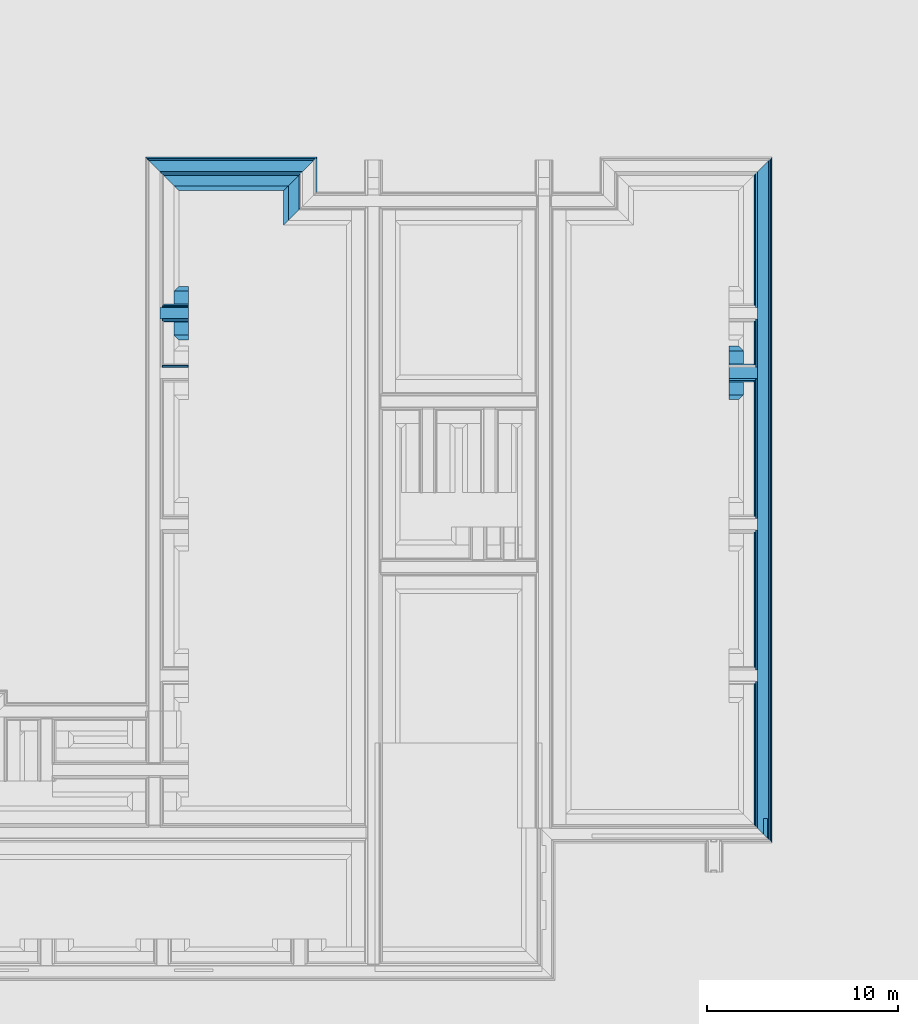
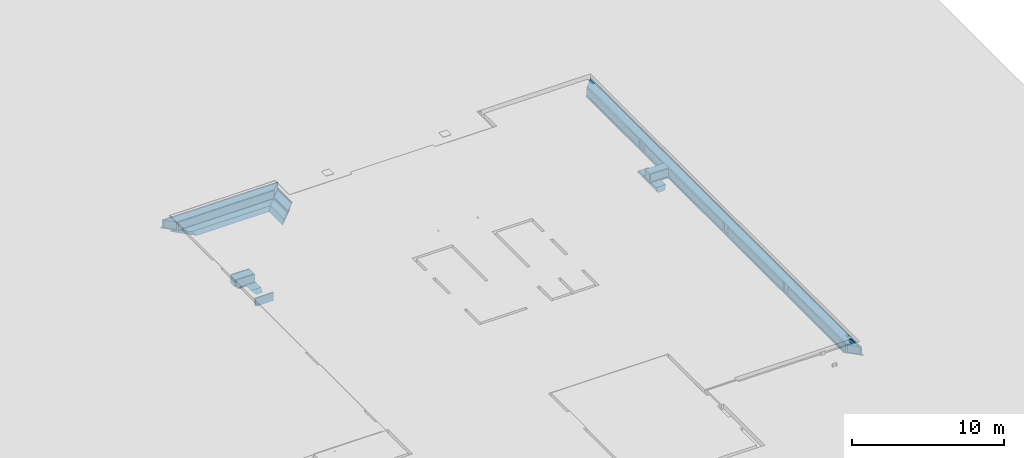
# One storey, part 12 of 15: 21 building element parts, 6 elements without a shape of their own.
"""IFC2X3 building model written with IfcOpenShell, lengths in millimetres."""

from ifc_helpers import new_model, entity, si_unit, converted_unit, derived_unit, money_unit, direction, frame, origin_with_axes, place, context, subcontext, project, spatial, faceted_brep, material, type_object, element, aggregate, save


model = new_model("IFC2X3")

# Units and contexts
model_context = context("Model", 3, precision=0.01, world=origin_with_axes(), true_north=direction((0.0, 1.0)))
plan_context = context("Plan", 3, precision=0.01, world=origin_with_axes(), true_north=direction((0.0, 1.0)))
body_context = subcontext(model_context, "Body", "Model", "MODEL_VIEW")
ifc_project = project(units=[si_unit("LENGTHUNIT", "METRE", prefix="MILLI"), si_unit("AREAUNIT", "SQUARE_METRE"), si_unit("VOLUMEUNIT", "CUBIC_METRE"), converted_unit("PLANEANGLEUNIT", "DEGREE", entity("IfcPlaneAngleMeasure", 0.0174532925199), si_unit("PLANEANGLEUNIT", "RADIAN"), dimensions=[0, 0, 0, 0, 0, 0, 0]), money_unit("EUR"), converted_unit("TIMEUNIT", "Year", entity("IfcTimeMeasure", 31556926.0), si_unit("TIMEUNIT", "SECOND"), dimensions=[0, 0, 1, 0, 0, 0, 0]), si_unit("MASSUNIT", "GRAM", prefix="KILO"), si_unit("THERMODYNAMICTEMPERATUREUNIT", "DEGREE_CELSIUS"), si_unit("LUMINOUSINTENSITYUNIT", "LUMEN"), si_unit("ENERGYUNIT", "JOULE", prefix="MEGA"), derived_unit("THERMALCONDUCTANCEUNIT", [(si_unit("POWERUNIT", "WATT"), 1), (si_unit("LENGTHUNIT", "METRE"), -1), (si_unit("THERMODYNAMICTEMPERATUREUNIT", "KELVIN"), -1)]), derived_unit("SPECIFICHEATCAPACITYUNIT", [(si_unit("ENERGYUNIT", "JOULE"), 1), (si_unit("MASSUNIT", "GRAM", prefix="KILO"), -1), (si_unit("THERMODYNAMICTEMPERATUREUNIT", "KELVIN"), -1)]), derived_unit("MASSDENSITYUNIT", [(si_unit("MASSUNIT", "GRAM", prefix="KILO"), 1), (si_unit("VOLUMEUNIT", "CUBIC_METRE"), -1)])], contexts=[model_context, plan_context])

# Site, building, storey
site_placement = place(None, origin_with_axes())
site = spatial("IfcSite", under=ifc_project, at=site_placement, Name="Site", CompositionType="ELEMENT")
building_placement = place(site_placement, origin_with_axes())
building = spatial("IfcBuilding", under=site, at=building_placement, Name="Naam gebouw", CompositionType="ELEMENT")
storey_placement = place(building_placement, frame((0.0, 0.0, -1050.0), z_axis=(0.0, 0.0, 1.0), x_axis=(1.0, 0.0, 0.0)))
storey = spatial("IfcBuildingStorey", under=building, at=storey_placement, Name="fundering", CompositionType="ELEMENT", Elevation=-1050.0)

# Beam, building element part
beam_type_1 = type_object("IfcBeamType", Name="Fundering balk IsoBouw Powerkist 2800 x 850", PredefinedType="BEAM")
beam_1_placement = place(storey_placement, frame((24125.0, 36200.0, -60.0000017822), z_axis=(0.0, 0.0, 1.0), x_axis=(0.0, -1.0, 0.0)))
beam_1 = element("IfcBeam", 1, at=beam_1_placement, inside=storey, type_object=beam_type_1, Name="28_Balk-x", ObjectType="BEAM")
ifc_material_1 = material(Name="Isolatie - EPS")
building_element_part_1_placement = place(beam_1_placement, origin_with_axes())
building_element_part_1 = element("IfcBuildingElementPart", 2, at=building_element_part_1_placement, material=ifc_material_1, Name="Isolatie - EPS", context=body_context, shape_type="Brep", body=[
    faceted_brep([(-380.000369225, 1803.44907352, -49.0824424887), (-380.000369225, 495.00000274, -49.0824424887), (-380.000369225, 495.00000274, 7.15338899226e-07), (-380.000369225, 1803.44907352, 2.4249691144e-06), (-300.00036966, 1803.44907352, -49.0824424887), (-300.00036966, 495.00000274, -49.0824424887), (-300.00036966, 495.00000274, 7.15338899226e-07), (-300.00036966, 419.999990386, 7.15338899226e-07), (-400.000366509, 419.999990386, 7.15338899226e-07), (-400.000366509, 1803.44907352, 2.4249691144e-06), (-400.000366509, 1803.44907352, 600.000004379), (-300.00036966, 1803.44907352, 600.000004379), (-300.00036966, 419.999990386, 600.000000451), (-400.000366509, 419.999990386, 600.000000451)], [[[0, 1, 2, 3]], [[4, 5, 1, 0]], [[6, 2, 1, 5]], [[6, 7, 8, 9, 3, 2]], [[4, 0, 3, 9, 10, 11]], [[7, 6, 5, 4, 11, 12]], [[7, 12, 13, 8]], [[9, 8, 13, 10]], [[10, 13, 12, 11]]]),
])
aggregate(beam_1, [building_element_part_1])

# Beam, building element parts
beam_type_2 = type_object("IfcBeamType", Name="Fundering balk IsoBouw Powerkist buitenwand 1750 x 850", PredefinedType="BEAM")
beam_2_placement = place(storey_placement, frame((24125.0, 47036.9999775, -60.0000017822), z_axis=(0.0, 0.0, 1.0), x_axis=(0.0, -1.0, 0.0)))
beam_2 = element("IfcBeam", 3, at=beam_2_placement, inside=storey, type_object=beam_type_2, Name="28_Balk-x", ObjectType="BEAM")
ifc_material_2 = material(Name="ALG - TERREIN")
building_element_part_2_placement = place(beam_2_placement, origin_with_axes())
building_element_part_2 = element("IfcBuildingElementPart", 4, at=building_element_part_2_placement, material=ifc_material_2, Name="ALG - TERREIN", context=body_context, shape_type="Brep", body=[
    faceted_brep([(1045.00001313, 7039.99998687, -7.27431315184e-06), (495.000015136, 7589.99998486, -7.27431315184e-06), (495.000015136, 495.000015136, -7.27431315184e-06), (1045.00001313, 1045.00001313, -7.27431315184e-06), (1295.00000274, 6789.99999726, -249.999996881), (20.0000061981, 8064.9999938, -249.999996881), (20.0000061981, 8064.9999938, -99.9999926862), (495.000015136, 7589.99998486, -99.9999926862), (495.000015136, 495.000015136, -99.9999926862), (20.0000061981, 20.0000061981, -99.9999926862), (20.0000061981, 20.0000061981, -249.999996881), (1295.00000274, 1295.00000274, -249.999996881)], [[[0, 1, 2, 3]], [[0, 4, 5, 6, 7, 1]], [[1, 7, 8, 2]], [[3, 2, 8, 9, 10, 11]], [[4, 0, 3, 11]], [[5, 4, 11, 10]], [[6, 5, 10, 9]], [[7, 6, 9, 8]]]),
])
building_element_part_3_placement = place(beam_2_placement, origin_with_axes())
building_element_part_3 = element("IfcBuildingElementPart", 5, at=building_element_part_3_placement, material=ifc_material_1, Name="Isolatie - EPS", context=body_context, shape_type="Brep", body=[
    faceted_brep([(400.000002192, 7684.99999781, 7.15338899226e-07), (400.000002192, 7684.99999781, -49.0824410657), (400.000002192, 400.000002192, -49.0824410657), (400.000002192, 400.000002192, 7.15338899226e-07), (419.999990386, 7665.00000961, 7.15338899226e-07), (495.00000274, 7589.99999726, 7.15338899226e-07), (495.00000274, 7589.99999726, -99.9999968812), (20.0000061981, 8064.9999938, -99.9999926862), (-455.00000274, 8540.00000274, -99.9999968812), (-455.00000274, 8540.00000274, 7.15338899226e-07), (-379.999990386, 8464.99999039, 7.15338899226e-07), (-360.000002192, 8445.00000219, 7.15338899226e-07), (-360.000002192, 8445.00000219, -49.0824410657), (-279.99999279, 8364.99999279, -49.0824410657), (-279.99999279, 8364.99999279, 7.15338899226e-07), (319.99999279, 7765.00000721, 7.15338899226e-07), (319.99999279, 7765.00000721, -49.0824410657), (319.99999279, 319.99999279, -49.0824410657), (319.99999279, 319.99999279, 7.15338899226e-07), (-279.99999279, -279.99999279, 7.15338899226e-07), (-279.99999279, -279.99999279, -49.0824410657), (-360.000002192, -360.000002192, -49.0824410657), (-360.000002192, -360.000002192, 7.15338899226e-07), (-379.999990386, -379.999990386, 7.15338899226e-07), (-455.00000274, -455.00000274, 7.15338899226e-07), (-455.00000274, -455.00000274, -99.9999968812), (20.0000061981, 20.0000061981, -99.9999926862), (495.00000274, 495.00000274, -99.9999968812), (495.00000274, 495.00000274, 7.15338899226e-07), (419.999990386, 419.999990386, 7.15338899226e-07)], [[[0, 1, 2, 3]], [[0, 4, 5, 6, 7, 8, 9, 10, 11, 12, 13, 14, 15, 16, 1]], [[1, 16, 17, 2]], [[3, 2, 17, 18, 19, 20, 21, 22, 23, 24, 25, 26, 27, 28, 29]], [[4, 0, 3, 29]], [[5, 4, 29, 28]], [[6, 5, 28, 27]], [[7, 6, 27, 26]], [[8, 7, 26, 25]], [[9, 8, 25, 24]], [[10, 9, 24, 23]], [[11, 10, 23, 22]], [[12, 11, 22, 21]], [[13, 12, 21, 20]], [[14, 13, 20, 19]], [[15, 14, 19, 18]], [[16, 15, 18, 17]]]),
])
building_element_part_4_placement = place(beam_2_placement, origin_with_axes())
building_element_part_4 = element("IfcBuildingElementPart", 6, at=building_element_part_4_placement, material=ifc_material_1, Name="Isolatie - EPS", context=body_context, shape_type="Brep", body=[
    faceted_brep([(-379.999993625, 8464.99999363, 2.28759100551e-06), (-359.999996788, 8444.99999679, 2.28759100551e-06), (-359.999996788, -359.999996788, 2.28759100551e-06), (-379.999993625, -379.999993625, 2.28759100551e-06), (-379.999993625, 8464.99999363, 600.000001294), (-279.999999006, 8364.99999901, 600.000001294), (-279.999999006, 8364.99999901, -49.0824424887), (-359.999996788, 8444.99999679, -49.0824424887), (-359.999996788, -359.999996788, -49.0824424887), (-279.999999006, -279.999999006, -49.0824424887), (-279.999999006, -279.999999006, 600.000001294), (-379.999993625, -379.999993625, 600.000001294)], [[[0, 1, 2, 3]], [[0, 4, 5, 6, 7, 1]], [[1, 7, 8, 2]], [[3, 2, 8, 9, 10, 11]], [[4, 0, 3, 11]], [[5, 4, 11, 10]], [[6, 5, 10, 9]], [[7, 6, 9, 8]]]),
])
building_element_part_5_placement = place(beam_2_placement, origin_with_axes())
building_element_part_5 = element("IfcBuildingElementPart", 7, at=building_element_part_5_placement, material=ifc_material_1, Name="Isolatie - EPS", context=body_context, shape_type="Brep", body=[
    faceted_brep([(419.999993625, 419.999993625, 600.000003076), (419.999993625, 7665.00000637, 600.000003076), (319.999999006, 7765.00000099, 600.000003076), (319.999999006, 319.999999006, 600.000003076), (419.999993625, 419.999993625, 4.06975675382e-06), (419.999993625, 7665.00000637, 4.06975675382e-06), (399.999996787, 7685.00000321, 4.06975675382e-06), (399.999996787, 7685.00000321, -49.0824407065), (319.999999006, 7765.00000099, -49.0824407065), (319.999999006, 319.999999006, -49.0824407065), (399.999996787, 399.999996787, -49.0824407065), (399.999996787, 399.999996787, 4.06975675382e-06)], [[[0, 1, 2, 3]], [[4, 5, 1, 0]], [[2, 1, 5, 6, 7, 8]], [[3, 2, 8, 9]], [[4, 0, 3, 9, 10, 11]], [[11, 6, 5, 4]], [[10, 7, 6, 11]], [[9, 8, 7, 10]]]),
])
ifc_material_3 = material(Name="Beton gewapend C")
building_element_part_6_placement = place(beam_2_placement, origin_with_axes())
building_element_part_6 = element("IfcBuildingElementPart", 8, at=building_element_part_6_placement, material=ifc_material_3, Name="Beton gewapend C", context=body_context, shape_type="Brep", body=[
    faceted_brep([(320.0, 320.0, 600.000001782), (320.0, 7765.0, 600.000001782), (-280.0, 8365.0, 600.0), (-280.0, -280.0, 600.0), (320.0, 320.0, 1.78216552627e-06), (320.0, 7765.0, 1.78216552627e-06), (-280.0, 8365.0, 0.0), (-280.0, -280.0, 0.0)], [[[0, 1, 2, 3]], [[4, 5, 1, 0]], [[2, 1, 5, 6]], [[3, 2, 6, 7]], [[4, 0, 3, 7]], [[7, 6, 5, 4]]]),
])
aggregate(beam_2, [building_element_part_2, building_element_part_3, building_element_part_4, building_element_part_5, building_element_part_6])

beam_3_placement = place(storey_placement, frame((54225.0, 36200.0, -60.0000017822), z_axis=(0.0, 0.0, 1.0), x_axis=(0.0, -1.0, 0.0)))
beam_3 = element("IfcBeam", 9, at=beam_3_placement, inside=storey, type_object=beam_type_1, Name="28_Balk-x", ObjectType="BEAM")
building_element_part_7_placement = place(beam_3_placement, origin_with_axes())
building_element_part_7 = element("IfcBuildingElementPart", 10, at=building_element_part_7_placement, material=ifc_material_2, Name="ALG - TERREIN", context=body_context, shape_type="Brep", body=[
    faceted_brep([(-475.000395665, 754.999964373, -7.27431315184e-06), (-1150.00039795, 754.999964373, -7.27431315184e-06), (-1150.00039795, 0.0, -1.92126834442e-05), (-475.000395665, 0.0, 2.25106189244e-05), (-1400.00037562, 504.999974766, -249.999996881), (-475.000395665, 654.99996234, -100.000009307), (475.000395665, 654.99996234, -100.000009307), (475.000395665, 754.999964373, -7.27431315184e-06), (1150.00039795, 754.999964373, -7.27431315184e-06), (1400.00037562, 504.999974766, -249.999996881), (-1400.00037562, 0.0, -249.999996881), (1400.00037562, 0.0, -249.999996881), (1150.00039795, 0.0, -1.92126834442e-05), (475.000395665, 0.0, 2.25106189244e-05), (475.000395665, 0.0, -100.00001028), (-475.000395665, 0.0, -100.00001028)], [[[0, 1, 2, 3]], [[4, 1, 0, 5, 6, 7, 8, 9]], [[1, 4, 10, 2]], [[11, 12, 13, 14, 15, 3, 2, 10]], [[5, 0, 3, 15]], [[6, 5, 15, 14]], [[7, 6, 14, 13]], [[8, 7, 13, 12]], [[9, 8, 12, 11]], [[4, 9, 11, 10]]]),
])
building_element_part_8_placement = place(beam_3_placement, origin_with_axes())
building_element_part_8 = element("IfcBuildingElementPart", 11, at=building_element_part_8_placement, material=ifc_material_1, Name="Isolatie - EPS", context=body_context, shape_type="Brep", body=[
    faceted_brep([(-400.000361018, 1304.99997477, 7.15338899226e-07), (-475.000375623, 1304.99997477, 7.15338899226e-07), (-475.000375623, 0.0, 8.43651903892e-06), (-400.000361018, 0.0, 8.43651903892e-06), (-475.000375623, 1304.99997477, -99.9999968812), (-380.000371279, 1304.99997477, 7.15338899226e-07), (-380.000371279, 1304.99997477, -49.0824435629), (-300.000369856, 1304.99997477, -49.0824435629), (-300.000369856, 1304.99997477, 7.15338899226e-07), (300.000369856, 1304.99997477, 7.15338899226e-07), (300.000369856, 1304.99997477, -49.0824435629), (380.000371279, 1304.99997477, -49.0824435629), (380.000371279, 1304.99997477, 7.15338899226e-07), (400.000361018, 1304.99997477, 7.15338899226e-07), (475.000375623, 1304.99997477, 7.15338899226e-07), (475.000375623, 1304.99997477, -99.9999968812), (-475.000375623, 0.0, -99.9999968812), (475.000375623, 0.0, 8.43651926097e-06), (400.000361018, 0.0, 8.43651903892e-06), (380.000371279, 0.0, 8.43651903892e-06), (380.000371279, 0.0, -49.0824435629), (300.000369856, 0.0, -49.0824435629), (300.000369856, 0.0, 8.43651903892e-06), (-300.000369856, 0.0, 8.43651903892e-06), (-300.000369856, 0.0, -49.0824435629), (-380.000371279, 0.0, -49.0824435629), (-380.000371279, 0.0, 8.43651903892e-06), (475.000375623, 0.0, -99.9999968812)], [[[0, 1, 2, 3]], [[4, 1, 0, 5, 6, 7, 8, 9, 10, 11, 12, 13, 14, 15]], [[1, 4, 16, 2]], [[17, 18, 19, 20, 21, 22, 23, 24, 25, 26, 3, 2, 16, 27]], [[5, 0, 3, 26]], [[6, 5, 26, 25]], [[7, 6, 25, 24]], [[8, 7, 24, 23]], [[9, 8, 23, 22]], [[10, 9, 22, 21]], [[11, 10, 21, 20]], [[12, 11, 20, 19]], [[13, 12, 19, 18]], [[14, 13, 18, 17]], [[15, 14, 17, 27]], [[4, 15, 27, 16]]]),
])
building_element_part_9_placement = place(beam_3_placement, origin_with_axes())
building_element_part_9 = element("IfcBuildingElementPart", 12, at=building_element_part_9_placement, material=ifc_material_1, Name="Isolatie - EPS", context=body_context, shape_type="Brep", body=[
    faceted_brep([(400.000366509, 0.0, 600.000004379), (400.000366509, 1379.99998712, 600.000000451), (300.00036966, 1379.99998712, 600.000000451), (300.00036966, 0.0, 600.000004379), (400.000366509, 0.0, 2.4249691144e-06), (400.000366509, 1379.99998712, 7.15338899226e-07), (300.00036966, 1379.99998712, 7.15338899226e-07), (300.00036966, 1304.99997477, 7.15338899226e-07), (300.00036966, 1304.99997477, -49.0824424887), (300.00036966, 0.0, -49.0824424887), (380.000369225, 0.0, -49.0824424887), (380.000369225, 0.0, 2.4249691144e-06), (380.000369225, 1304.99997477, 7.15338899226e-07), (380.000369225, 1304.99997477, -49.0824424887)], [[[0, 1, 2, 3]], [[4, 5, 1, 0]], [[5, 6, 2, 1]], [[6, 7, 8, 9, 3, 2]], [[10, 11, 4, 0, 3, 9]], [[7, 6, 5, 4, 11, 12]], [[13, 8, 7, 12]], [[9, 8, 13, 10]], [[10, 13, 12, 11]]]),
])
building_element_part_10_placement = place(beam_3_placement, origin_with_axes())
building_element_part_10 = element("IfcBuildingElementPart", 13, at=building_element_part_10_placement, material=ifc_material_3, Name="Beton gewapend C", context=body_context, shape_type="Brep", body=[
    faceted_brep([(300.000372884, 0.0, 600.0), (300.000372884, 1479.99997751, 600.000001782), (-300.000372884, 1479.99997751, 600.000001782), (-300.000372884, 0.0, 600.0), (300.000372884, 0.0, 0.0), (300.000372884, 1479.99997751, 1.78216552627e-06), (-300.000372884, 1479.99997751, 1.78216552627e-06), (-300.000372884, 0.0, 0.0)], [[[0, 1, 2, 3]], [[4, 5, 1, 0]], [[5, 6, 2, 1]], [[3, 2, 6, 7]], [[3, 7, 4, 0]], [[7, 6, 5, 4]]]),
])
aggregate(beam_3, [building_element_part_7, building_element_part_8, building_element_part_9, building_element_part_10])

beam_4_placement = place(storey_placement, frame((24125.0, 39325.0, -60.0000017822), z_axis=(0.0, 0.0, 1.0), x_axis=(0.0, -1.0, 0.0)))
beam_4 = element("IfcBeam", 14, at=beam_4_placement, inside=storey, type_object=beam_type_1, Name="28_Balk-x", ObjectType="BEAM")
building_element_part_11_placement = place(beam_4_placement, origin_with_axes())
building_element_part_11 = element("IfcBuildingElementPart", 15, at=building_element_part_11_placement, material=ifc_material_2, Name="ALG - TERREIN", context=body_context, shape_type="Brep", body=[
    faceted_brep([(1400.00037562, 1295.00000274, -249.999996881), (-1400.00037562, 1295.00000274, -249.999996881), (-1400.00037562, 1803.44907352, -249.999996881), (1400.00037562, 1803.44907352, -249.999996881), (-1150.00039795, 1045.00001313, -6.21457107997e-07), (1150.00039795, 1045.00001313, 2.15207474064e-06), (475.000395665, 1045.00001313, 1.3381036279e-06), (475.000395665, 1145.00001516, -100.000009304), (-475.000395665, 1145.00001516, -100.000009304), (-475.000395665, 1045.00001313, 1.92513782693e-07), (-1150.00039795, 1803.44907352, -1.92126834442e-05), (-475.000395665, 1803.44907352, -100.00001028), (475.000395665, 1803.44907352, -100.00001028), (475.000395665, 1803.44907352, 2.25106189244e-05), (1150.00039795, 1803.44907352, -1.92126834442e-05), (-475.000395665, 1803.44907352, 2.25106189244e-05)], [[[0, 1, 2, 3]], [[4, 1, 0, 5, 6, 7, 8, 9]], [[1, 4, 10, 2]], [[11, 12, 13, 14, 3, 2, 10, 15]], [[5, 0, 3, 14]], [[6, 5, 14, 13]], [[7, 6, 13, 12]], [[8, 7, 12, 11]], [[9, 8, 11, 15]], [[4, 9, 15, 10]]]),
])
building_element_part_12_placement = place(beam_4_placement, origin_with_axes())
building_element_part_12 = element("IfcBuildingElementPart", 16, at=building_element_part_12_placement, material=ifc_material_1, Name="Isolatie - EPS", context=body_context, shape_type="Brep", body=[
    faceted_brep([(-475.000375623, 495.00000274, -99.9999968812), (-475.000375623, 495.00000274, 7.15338899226e-07), (-475.000375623, 1803.44907352, 8.43651903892e-06), (-475.000375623, 1803.44907352, -99.9999968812), (-400.000361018, 495.00000274, 7.15338899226e-07), (475.000375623, 495.00000274, -99.9999968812), (475.000375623, 495.00000274, 7.15338899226e-07), (400.000361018, 495.00000274, 7.15338899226e-07), (380.000371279, 495.00000274, 7.15338899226e-07), (380.000371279, 495.00000274, -49.0824435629), (300.000369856, 495.00000274, -49.0824435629), (300.000369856, 495.00000274, 7.15338899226e-07), (-300.000369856, 495.00000274, 7.15338899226e-07), (-300.000369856, 495.00000274, -49.0824435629), (-380.000371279, 495.00000274, -49.0824435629), (-380.000371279, 495.00000274, 7.15338899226e-07), (-400.000361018, 1803.44907352, 8.43651903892e-06), (300.000369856, 1803.44907352, -49.0824435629), (380.000371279, 1803.44907352, -49.0824435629), (380.000371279, 1803.44907352, 8.43651903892e-06), (400.000361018, 1803.44907352, 8.43651903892e-06), (475.000375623, 1803.44907352, 8.43651926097e-06), (475.000375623, 1803.44907352, -99.9999968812), (-380.000371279, 1803.44907352, 8.43651903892e-06), (-380.000371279, 1803.44907352, -49.0824435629), (-300.000369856, 1803.44907352, -49.0824435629), (-300.000369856, 1803.44907352, 8.43651903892e-06), (300.000369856, 1803.44907352, 8.43651903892e-06)], [[[0, 1, 2, 3]], [[4, 1, 0, 5, 6, 7, 8, 9, 10, 11, 12, 13, 14, 15]], [[1, 4, 16, 2]], [[17, 18, 19, 20, 21, 22, 3, 2, 16, 23, 24, 25, 26, 27]], [[5, 0, 3, 22]], [[6, 5, 22, 21]], [[7, 6, 21, 20]], [[8, 7, 20, 19]], [[9, 8, 19, 18]], [[10, 9, 18, 17]], [[11, 10, 17, 27]], [[12, 11, 27, 26]], [[13, 12, 26, 25]], [[14, 13, 25, 24]], [[15, 14, 24, 23]], [[4, 15, 23, 16]]]),
])
building_element_part_13_placement = place(beam_4_placement, origin_with_axes())
building_element_part_13 = element("IfcBuildingElementPart", 17, at=building_element_part_13_placement, material=ifc_material_1, Name="Isolatie - EPS", context=body_context, shape_type="Brep", body=[
    faceted_brep([(-380.000369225, 1803.44907352, -49.0824424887), (-380.000369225, 495.00000274, -49.0824424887), (-380.000369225, 495.00000274, 7.15338899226e-07), (-380.000369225, 1803.44907352, 2.4249691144e-06), (-300.00036966, 1803.44907352, -49.0824424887), (-300.00036966, 495.00000274, -49.0824424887), (-300.00036966, 495.00000274, 7.15338899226e-07), (-300.00036966, 419.999990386, 7.15338899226e-07), (-400.000366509, 419.999990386, 7.15338899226e-07), (-400.000366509, 1803.44907352, 2.4249691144e-06), (-400.000366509, 1803.44907352, 600.000004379), (-300.00036966, 1803.44907352, 600.000004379), (-300.00036966, 419.999990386, 600.000000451), (-400.000366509, 419.999990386, 600.000000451)], [[[0, 1, 2, 3]], [[4, 5, 1, 0]], [[6, 2, 1, 5]], [[6, 7, 8, 9, 3, 2]], [[4, 0, 3, 9, 10, 11]], [[7, 6, 5, 4, 11, 12]], [[7, 12, 13, 8]], [[9, 8, 13, 10]], [[10, 13, 12, 11]]]),
])
building_element_part_14_placement = place(beam_4_placement, origin_with_axes())
building_element_part_14 = element("IfcBuildingElementPart", 18, at=building_element_part_14_placement, material=ifc_material_1, Name="Isolatie - EPS", context=body_context, shape_type="Brep", body=[
    faceted_brep([(300.00036966, 495.00000274, 7.15338899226e-07), (300.00036966, 419.999990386, 7.15338899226e-07), (300.00036966, 419.999990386, 600.000000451), (300.00036966, 1803.44907352, 600.000004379), (300.00036966, 1803.44907352, -49.0824424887), (300.00036966, 495.00000274, -49.0824424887), (400.000366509, 1803.44907352, 2.4249691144e-06), (400.000366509, 419.999990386, 7.15338899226e-07), (380.000369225, 495.00000274, 7.15338899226e-07), (380.000369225, 1803.44907352, 2.4249691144e-06), (400.000366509, 419.999990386, 600.000000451), (400.000366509, 1803.44907352, 600.000004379), (380.000369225, 1803.44907352, -49.0824424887), (380.000369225, 495.00000274, -49.0824424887)], [[[0, 1, 2, 3, 4, 5]], [[6, 7, 1, 0, 8, 9]], [[7, 10, 2, 1]], [[3, 2, 10, 11]], [[12, 4, 3, 11, 6, 9]], [[12, 13, 5, 4]], [[8, 0, 5, 13]], [[11, 10, 7, 6]], [[9, 8, 13, 12]]]),
])
building_element_part_15_placement = place(beam_4_placement, origin_with_axes())
building_element_part_15 = element("IfcBuildingElementPart", 19, at=building_element_part_15_placement, material=ifc_material_3, Name="Beton gewapend C", context=body_context, shape_type="Brep", body=[
    faceted_brep([(-300.000372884, 1803.44907352, 0.0), (-300.000372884, 320.0, 1.78216552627e-06), (-300.000372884, 320.0, 600.000001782), (-300.000372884, 1803.44907352, 600.0), (300.000372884, 1803.44907352, 0.0), (300.000372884, 320.0, 1.78216552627e-06), (300.000372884, 320.0, 600.000001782), (300.000372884, 1803.44907352, 600.0)], [[[0, 1, 2, 3]], [[4, 5, 1, 0]], [[5, 6, 2, 1]], [[3, 2, 6, 7]], [[4, 0, 3, 7]], [[7, 6, 5, 4]]]),
])
aggregate(beam_4, [building_element_part_11, building_element_part_12, building_element_part_13, building_element_part_14, building_element_part_15])

beam_5_placement = place(storey_placement, frame((56024.9999775, 47036.9998512, -60.0000017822), z_axis=(0.0, 0.0, 1.0), x_axis=(-1.0, 0.0, 0.0)))
beam_5 = element("IfcBeam", 20, at=beam_5_placement, inside=storey, type_object=beam_type_2, Name="28_Balk-x", ObjectType="BEAM")
building_element_part_16_placement = place(beam_5_placement, origin_with_axes())
building_element_part_16 = element("IfcBuildingElementPart", 21, at=building_element_part_16_placement, material=ifc_material_1, Name="Isolatie - EPS", context=body_context, shape_type="Brep", body=[
    faceted_brep([(400.000002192, 34586.9998154, 7.15338899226e-07), (400.000002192, 34586.9998154, -49.0824410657), (400.000002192, 400.000337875, -49.0824410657), (400.000002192, 400.000337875, 7.15338899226e-07), (-279.99999279, 35266.9998104, 7.15338899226e-07), (319.99999279, 34666.9998248, 7.15338899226e-07), (319.99999279, 34666.9998248, -49.0824410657), (419.999990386, 34566.9998272, 7.15338899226e-07), (495.00000274, 34491.9998148, 7.15338899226e-07), (495.00000274, 34491.9998148, -99.9999968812), (20.0000061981, 34966.9998114, -99.9999926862), (-455.00000274, 35441.9998203, -99.9999968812), (-455.00000274, 35441.9998203, 7.15338899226e-07), (-379.999990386, 35366.999808, 7.15338899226e-07), (-360.000002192, 35346.9998198, 7.15338899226e-07), (-360.000002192, 35346.9998198, -49.0824410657), (-279.99999279, 35266.9998104, -49.0824410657), (319.99999279, 320.000261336, -49.0824410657), (20.0000061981, 20.0000229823, -99.9999926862), (495.00000274, 495.000418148, -99.9999968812), (495.00000274, 495.000418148, 7.15338899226e-07), (419.999990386, 420.000342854, 7.15338899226e-07), (319.99999279, 320.000261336, 7.15338899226e-07), (-279.99999279, -280.000227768, 7.15338899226e-07), (-279.99999279, -280.000227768, -49.0824410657), (-360.000002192, -360.000304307, -49.0824410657), (-360.000002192, -360.000304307, 7.15338899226e-07), (-379.999990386, -380.000309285, 7.15338899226e-07), (-455.00000274, -455.00038458, 7.15338899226e-07), (-455.00000274, -455.00038458, -99.9999968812)], [[[0, 1, 2, 3]], [[4, 5, 6, 1, 0, 7, 8, 9, 10, 11, 12, 13, 14, 15, 16]], [[1, 6, 17, 2]], [[18, 19, 20, 21, 3, 2, 17, 22, 23, 24, 25, 26, 27, 28, 29]], [[7, 0, 3, 21]], [[5, 4, 23, 22]], [[6, 5, 22, 17]], [[8, 7, 21, 20]], [[9, 8, 20, 19]], [[10, 9, 19, 18]], [[11, 10, 18, 29]], [[12, 11, 29, 28]], [[13, 12, 28, 27]], [[14, 13, 27, 26]], [[15, 14, 26, 25]], [[16, 15, 25, 24]], [[4, 16, 24, 23]]]),
])
building_element_part_17_placement = place(beam_5_placement, origin_with_axes())
building_element_part_17 = element("IfcBuildingElementPart", 22, at=building_element_part_17_placement, material=ifc_material_1, Name="Isolatie - EPS", context=body_context, shape_type="Brep", body=[
    faceted_brep([(-379.999993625, 35366.9998112, 2.28759100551e-06), (-359.999996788, 35346.9998144, 2.28759100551e-06), (-359.999996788, -360.000298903, 2.28759100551e-06), (-379.999993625, -380.000312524, 2.28759100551e-06), (-379.999993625, 35366.9998112, 600.000001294), (-279.999999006, 35266.9998166, 600.000001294), (-279.999999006, 35266.9998166, -49.0824424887), (-359.999996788, 35346.9998144, -49.0824424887), (-359.999996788, -360.000298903, -49.0824424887), (-279.999999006, -280.000233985, -49.0824424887), (-279.999999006, -280.000233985, 600.000001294), (-379.999993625, -380.000312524, 600.000001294)], [[[0, 1, 2, 3]], [[0, 4, 5, 6, 7, 1]], [[1, 7, 8, 2]], [[3, 2, 8, 9, 10, 11]], [[4, 0, 3, 11]], [[5, 4, 11, 10]], [[6, 5, 10, 9]], [[7, 6, 9, 8]]]),
])
building_element_part_18_placement = place(beam_5_placement, origin_with_axes())
building_element_part_18 = element("IfcBuildingElementPart", 23, at=building_element_part_18_placement, material=ifc_material_1, Name="Isolatie - EPS", context=body_context, shape_type="Brep", body=[
    faceted_brep([(319.999999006, 320.000267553, 600.000003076), (419.999993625, 420.000346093, 600.000003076), (419.999993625, 7411.99947836, 600.000001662), (320.0, 7411.99947836, 600.000001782), (319.999999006, 320.000267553, -49.0824407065), (399.999996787, 400.000332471, -49.0824407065), (399.999996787, 400.000332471, 4.06975675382e-06), (419.999993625, 420.000346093, 4.06975675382e-06), (419.999993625, 7411.99947836, 1.66174896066e-06), (399.999996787, 7411.99947836, 1.68583214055e-06), (320.0, 7411.99947836, 1.78216552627e-06), (320.0, 8012.00022413, 1.78216552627e-06), (320.0, 8012.00022413, 600.000001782), (320.0, 10536.9994784, 600.000001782), (320.0, 10536.9994784, 1.78216552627e-06), (320.0, 11137.0002241, 1.78216552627e-06), (320.0, 11137.0002241, 600.000001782), (320.0, 18461.9994784, 600.000001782), (320.0, 18461.9994784, 1.78216552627e-06), (320.0, 19062.0002241, 1.78216552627e-06), (320.0, 19062.0002241, 600.000001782), (320.0, 26386.9994784, 600.000001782), (320.0, 26386.9994784, 1.78216552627e-06), (320.0, 26987.0002241, 1.78216552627e-06), (320.0, 26987.0002241, 600.000001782), (319.999999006, 34666.9998186, 600.000003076), (319.999999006, 34666.9998186, -49.0824407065), (399.999996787, 34586.9998208, -49.0824407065), (399.999996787, 11137.0002241, 1.68583214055e-06), (399.999996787, 10536.9994784, 1.68583214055e-06), (399.999996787, 8012.00022413, 1.68583214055e-06), (399.999996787, 34586.9998208, 4.06975675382e-06), (399.999996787, 26987.0002241, 1.68583214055e-06), (399.999996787, 26386.9994784, 1.68583214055e-06), (399.999996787, 19062.0002241, 1.68583214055e-06), (399.999996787, 18461.9994784, 1.68583214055e-06), (419.999993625, 8012.00022413, 1.66174896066e-06), (419.999993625, 8012.00022413, 600.000001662), (419.999993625, 10536.9994784, 600.000001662), (419.999993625, 10536.9994784, 1.66174896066e-06), (419.999993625, 11137.0002241, 600.000001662), (419.999993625, 11137.0002241, 1.66174896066e-06), (419.999993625, 18461.9994784, 600.000001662), (419.999993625, 18461.9994784, 1.66174896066e-06), (419.999993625, 19062.0002241, 1.66174896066e-06), (419.999993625, 19062.0002241, 600.000001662), (419.999993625, 26386.9994784, 600.000001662), (419.999993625, 26386.9994784, 1.66174896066e-06), (419.999993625, 26987.0002241, 1.66174896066e-06), (419.999993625, 26987.0002241, 600.000001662), (419.999993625, 34566.9998239, 600.000003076), (419.999993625, 34566.9998239, 4.06975675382e-06)], [[[0, 1, 2, 3]], [[1, 0, 4, 5, 6, 7]], [[1, 7, 8, 2]], [[8, 9, 10, 3, 2]], [[3, 10, 11, 12, 13, 14, 15, 16, 17, 18, 19, 20, 21, 22, 23, 24, 25, 26, 4, 0]], [[5, 4, 26, 27]], [[28, 29, 30, 9, 6, 5, 27, 31, 32, 33, 34, 35]], [[7, 6, 9, 8]], [[9, 30, 11, 10]], [[30, 36, 37, 12, 11]], [[38, 13, 12, 37]], [[14, 13, 38, 39, 29]], [[28, 15, 14, 29]], [[40, 16, 15, 28, 41]], [[17, 16, 40, 42]], [[42, 43, 35, 18, 17]], [[18, 35, 34, 19]], [[19, 34, 44, 45, 20]], [[45, 46, 21, 20]], [[21, 46, 47, 33, 22]], [[23, 22, 33, 32]], [[24, 23, 32, 48, 49]], [[24, 49, 50, 25]], [[50, 51, 31, 27, 26, 25]], [[29, 39, 36, 30]], [[48, 32, 31, 51]], [[34, 33, 47, 44]], [[43, 41, 28, 35]], [[39, 38, 37, 36]], [[42, 40, 41, 43]], [[44, 47, 46, 45]], [[49, 48, 51, 50]]]),
])
building_element_part_19_placement = place(beam_5_placement, origin_with_axes())
building_element_part_19 = element("IfcBuildingElementPart", 24, at=building_element_part_19_placement, material=ifc_material_3, Name="Beton gewapend C", context=body_context, shape_type="Brep", body=[
    faceted_brep([(-9.10890918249e-06, 34176.9998512, 600.000000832), (-210.000080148, 34176.9998512, 600.000000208), (-210.000080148, 35196.9998913, 600.000000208), (-280.0, 35266.9998176, 600.0), (-280.0, -280.000234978, 600.0), (320.0, 320.000268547, 600.000001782), (320.0, 34666.9998176, 600.000001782), (-9.10890918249e-06, 34986.9998267, 600.000000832), (-8.9450011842e-06, 34176.9998512, 540.000001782), (-210.000080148, 34176.9998512, 540.000001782), (-210.000080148, 35196.9998913, 540.000001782), (-8.9450011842e-06, 34986.9998265, 540.000001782), (320.0, 34666.9998176, 1.78216574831e-06), (-280.0, 35266.9998176, 0.0), (-280.0, -280.000234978, 0.0), (320.0, 320.000268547, 1.78216574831e-06)], [[[0, 1, 2, 3, 4, 5, 6, 7]], [[8, 9, 1, 0]], [[10, 2, 1, 9]], [[2, 10, 11, 7, 6, 12, 13, 3]], [[14, 4, 3, 13]], [[14, 15, 5, 4]], [[5, 15, 12, 6]], [[8, 0, 7, 11]], [[11, 10, 9, 8]], [[15, 14, 13, 12]]]),
])
aggregate(beam_5, [building_element_part_16, building_element_part_17, building_element_part_18, building_element_part_19])

beam_6_placement = place(storey_placement, frame((32140.0, 47036.9999775, -60.0000017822), z_axis=(0.0, 0.0, 1.0), x_axis=(-1.0, 0.0, 0.0)))
beam_6 = element("IfcBeam", 25, at=beam_6_placement, inside=storey, type_object=beam_type_2, Name="28_Balk-x", ObjectType="BEAM")
building_element_part_20_placement = place(beam_6_placement, origin_with_axes())
building_element_part_20 = element("IfcBuildingElementPart", 26, at=building_element_part_20_placement, material=ifc_material_2, Name="ALG - TERREIN", context=body_context, shape_type="Brep", body=[
    faceted_brep([(975.000013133, 2858.99999063, -7.27431315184e-06), (425.000015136, 2308.99999264, -7.27431315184e-06), (425.000015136, 495.000015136, -7.27431315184e-06), (975.000013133, 1045.00001313, -7.27431315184e-06), (1225.00000274, 3108.99998024, -249.999996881), (-49.9999938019, 1833.9999837, -249.999996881), (-49.9999938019, 1833.9999837, -99.9999926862), (425.000015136, 2308.99999264, -99.9999926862), (425.000015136, 495.000015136, -99.9999926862), (-49.9999938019, 20.0000061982, -99.9999926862), (-49.9999938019, 20.0000061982, -249.999996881), (1225.00000274, 1295.00000274, -249.999996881)], [[[0, 1, 2, 3]], [[0, 4, 5, 6, 7, 1]], [[1, 7, 8, 2]], [[3, 2, 8, 9, 10, 11]], [[4, 0, 3, 11]], [[5, 4, 11, 10]], [[6, 5, 10, 9]], [[7, 6, 9, 8]]]),
])
building_element_part_21_placement = place(beam_6_placement, origin_with_axes())
building_element_part_21 = element("IfcBuildingElementPart", 27, at=building_element_part_21_placement, material=ifc_material_1, Name="Isolatie - EPS", context=body_context, shape_type="Brep", body=[
    faceted_brep([(330.000002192, 2213.99997969, 7.15338899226e-07), (330.000002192, 2213.99997969, -49.0824410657), (330.000002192, 400.000002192, -49.0824410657), (330.000002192, 400.000002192, 7.15338899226e-07), (349.999990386, 2233.99996789, 7.15338899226e-07), (425.00000274, 2308.99998024, 7.15338899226e-07), (425.00000274, 2308.99998024, -99.9999968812), (-49.9999938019, 1833.9999837, -99.9999926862), (-525.00000274, 1358.99997476, -99.9999968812), (-525.00000274, 1358.99997476, 7.15338899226e-07), (-449.999990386, 1433.99998711, 7.15338899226e-07), (-430.000002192, 1453.99997531, 7.15338899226e-07), (-430.000002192, 1453.99997531, -49.0824410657), (-349.99999279, 1533.99998471, -49.0824410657), (-349.99999279, 1533.99998471, 7.15338899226e-07), (249.99999279, 2133.99997029, 7.15338899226e-07), (249.99999279, 2133.99997029, -49.0824410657), (249.99999279, 319.99999279, -49.0824410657), (249.99999279, 319.99999279, 7.15338899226e-07), (-349.99999279, -279.99999279, 7.15338899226e-07), (-349.99999279, -279.99999279, -49.0824410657), (-430.000002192, -360.000002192, -49.0824410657), (-430.000002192, -360.000002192, 7.15338899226e-07), (-449.999990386, -379.999990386, 7.15338899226e-07), (-525.00000274, -455.00000274, 7.15338899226e-07), (-525.00000274, -455.00000274, -99.9999968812), (-49.9999938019, 20.0000061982, -99.9999926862), (425.00000274, 495.00000274, -99.9999968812), (425.00000274, 495.00000274, 7.15338899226e-07), (349.999990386, 419.999990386, 7.15338899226e-07)], [[[0, 1, 2, 3]], [[0, 4, 5, 6, 7, 8, 9, 10, 11, 12, 13, 14, 15, 16, 1]], [[1, 16, 17, 2]], [[3, 2, 17, 18, 19, 20, 21, 22, 23, 24, 25, 26, 27, 28, 29]], [[4, 0, 3, 29]], [[5, 4, 29, 28]], [[6, 5, 28, 27]], [[7, 6, 27, 26]], [[8, 7, 26, 25]], [[9, 8, 25, 24]], [[10, 9, 24, 23]], [[11, 10, 23, 22]], [[12, 11, 22, 21]], [[13, 12, 21, 20]], [[14, 13, 20, 19]], [[15, 14, 19, 18]], [[16, 15, 18, 17]]]),
])
aggregate(beam_6, [building_element_part_20, building_element_part_21])

save(model, "model.ifc")
